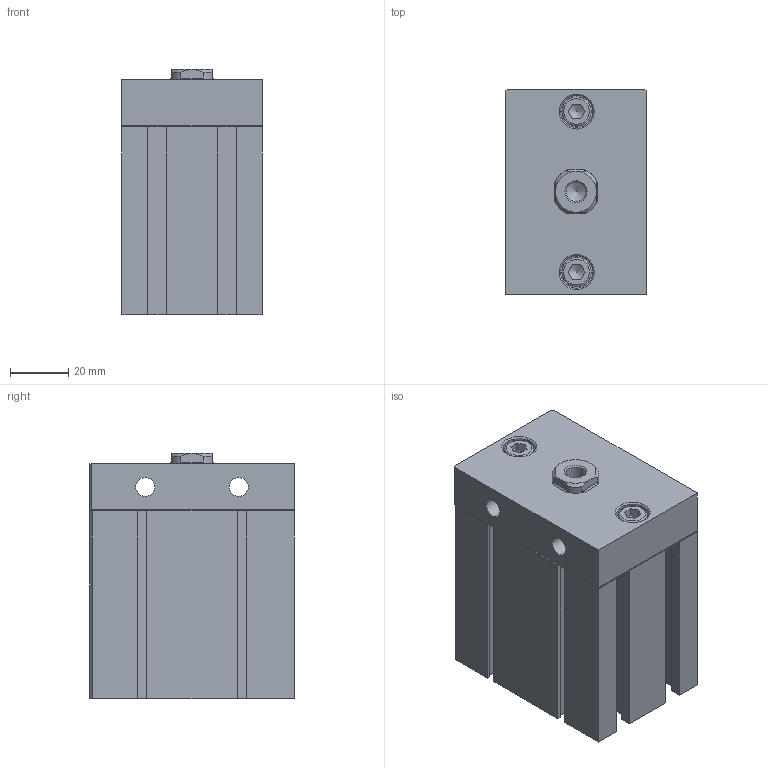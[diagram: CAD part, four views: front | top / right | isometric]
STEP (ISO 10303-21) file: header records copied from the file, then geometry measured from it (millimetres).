
FILE_DESCRIPTION((''),'2;1');
FILE_NAME('I:\3D電子目錄\氣缸\ND\ND\ND40\ND40x30.stp','2007-07-30T19:06:01',('Administrator'),(''),'Autodesk Inventor 11','Autodesk Inventor 11','');
FILE_SCHEMA(('AUTOMOTIVE_DESIGN { 1 0 10303 214 1 1 1 1 }'));
Length unit declared in the file: millimetre
Products named in the file (4): ND40; R 形環 42; ISO 4762 M6 x 20
Assembly tree (4 placements, depth 2):
  ND40
    ND40
    R 形環 42
    ISO 4762 M6 x 20  x2
Bounding box: 48 x 70.1 x 84 mm (x, y, z)
Volume: 241179.7 mm3; surface area: 42665.4 mm2
Topology: 5 solids, 5 shells, 195 faces, 467 edges, 297 vertices
Faces by surface type: plane 133, cylinder 25, cone 18, bspline 16, torus 3
Full cylindrical faces by diameter (mm): 1.9 x2, 2.2 x2, 6 x2, 6.5 x2, 10 x2, 11 x2, 29 x1, 42 x1, 44.5 x1
Entity records: 5217 total; most frequent: CARTESIAN_POINT 1095, DIRECTION 812, ORIENTED_EDGE 782, EDGE_CURVE 391, VECTOR 288, LINE 288, VERTEX_POINT 271, AXIS2_PLACEMENT_3D 262
